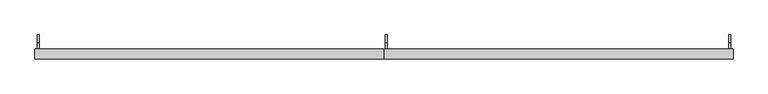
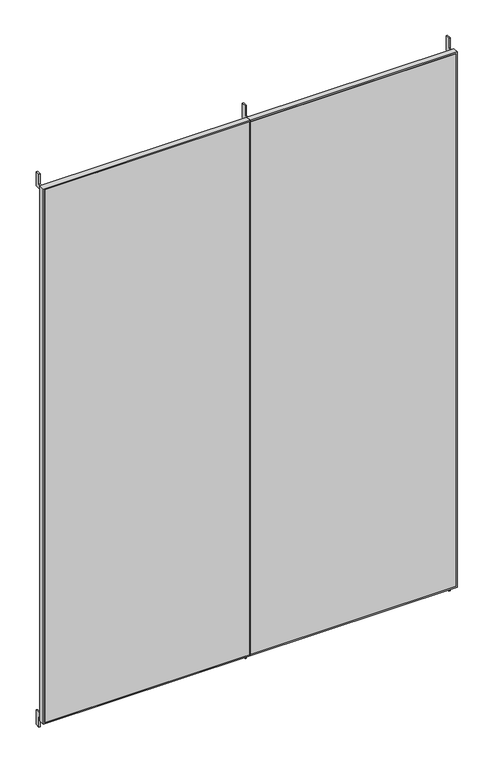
"""IFC4 building model written with IfcOpenShell, lengths in millimetres: furniture geometry, H02 Protección 2 módulos : H02 Protección 2 módulos 230x315."""

from ifc_helpers import new_model, si_unit, frame, origin, place, context, project, spatial, polyline, outline, extrude, source, transform, mapped, element, save


def furniture_beb05811(model_context):
    return source(origin(), model_context, "Body", "SweptSolid", [
        extrude(outline(polyline([(1152.7003264, -600.0), (48.2003264, -600.0), (48.2003264, -597.0), (1152.7003264, -597.0), (1152.7003264, -600.0)])), frame((0.0, 0.0, 57.0), z_axis=(0.0, 0.0, 1.0), x_axis=(1.0, 0.0, 0.0)), (0.0, 0.0, 1.0), 3036.0),
        extrude(outline(polyline([(3100.0, 1159.7003264), (3100.0, 44.7003264), (50.0, 44.7003264), (50.0, 1159.7003264), (3100.0, 1159.7003264)]), holes=[polyline([(3093.0, 1152.7003264), (57.0, 1152.7003264), (57.0, 48.2003264), (3093.0, 48.2003264), (3093.0, 1152.7003264)])]), frame((0.0, -600.0, 0.0), z_axis=(0.0, 1.0, 0.0), x_axis=(0.0, 0.0, 1.0)), (0.0, 0.0, 1.0), 32.0),
        extrude(outline(polyline([(41.2003264, -600.0), (-1063.2996736, -600.0), (-1063.2996736, -597.0), (41.2003264, -597.0), (41.2003264, -600.0)])), frame((0.0, 0.0, 57.0), z_axis=(0.0, 0.0, 1.0), x_axis=(1.0, 0.0, 0.0)), (0.0, 0.0, 1.0), 3036.0),
        extrude(outline(polyline([(3100.0, 44.7003264), (3100.0, -1070.2996736), (50.0, -1070.2996736), (50.0, 44.7003264), (3100.0, 44.7003264)]), holes=[polyline([(3093.0, 41.2003264), (57.0, 41.2003264), (57.0, -1063.2996736), (3093.0, -1063.2996736), (3093.0, 41.2003264)])]), frame((0.0, -600.0, 0.0), z_axis=(0.0, 1.0, 0.0), x_axis=(0.0, 0.0, 1.0)), (0.0, 0.0, 1.0), 32.0),
        extrude(outline(polyline([(-522.0, 3068.0), (-597.0, 3068.0), (-597.0, 3093.0), (-547.0, 3093.0), (-547.0, 3150.0), (-522.0, 3150.0), (-522.0, 3068.0)])), frame((-1063.2996736, 0.0, 0.0), z_axis=(1.0, 0.0, 0.0), x_axis=(0.0, 1.0, 0.0)), (0.0, 0.0, 1.0), 7.0),
        extrude(outline(polyline([(-522.0, 3068.0), (-597.0, 3068.0), (-597.0, 3093.0), (-547.0, 3093.0), (-547.0, 3150.0), (-522.0, 3150.0), (-522.0, 3068.0)])), frame((1145.7003264, 0.0, 0.0), z_axis=(1.0, 0.0, 0.0), x_axis=(0.0, 1.0, 0.0)), (0.0, 0.0, 1.0), 7.0),
        extrude(outline(polyline([(-522.0, 82.0), (-522.0, 0.0), (-547.0, 0.0), (-547.0, 57.0), (-597.0, 57.0), (-597.0, 82.0), (-522.0, 82.0)])), frame((1145.7003264, 0.0, 0.0), z_axis=(1.0, 0.0, 0.0), x_axis=(0.0, 1.0, 0.0)), (0.0, 0.0, 1.0), 7.0),
        extrude(outline(polyline([(-522.0, 82.0), (-522.0, 0.0), (-547.0, 0.0), (-547.0, 57.0), (-597.0, 57.0), (-597.0, 82.0), (-522.0, 82.0)])), frame((-1063.2996736, 0.0, 0.0), z_axis=(1.0, 0.0, 0.0), x_axis=(0.0, 1.0, 0.0)), (0.0, 0.0, 1.0), 7.0),
        extrude(outline(polyline([(-522.0, 3068.0), (-597.0, 3068.0), (-597.0, 3093.0), (-547.0, 3093.0), (-547.0, 3150.0), (-522.0, 3150.0), (-522.0, 3068.0)])), frame((48.2003264, 0.0, 0.0), z_axis=(1.0, 0.0, 0.0), x_axis=(0.0, 1.0, 0.0)), (0.0, 0.0, 1.0), 7.0),
        extrude(outline(polyline([(-522.0, 82.0), (-522.0, 0.0), (-547.0, 0.0), (-547.0, 57.0), (-597.0, 57.0), (-597.0, 82.0), (-522.0, 82.0)])), frame((48.2003264, 0.0, 0.0), z_axis=(1.0, 0.0, 0.0), x_axis=(0.0, 1.0, 0.0)), (0.0, 0.0, 1.0), 7.0),
    ])


if __name__ == "__main__":
    model = new_model("IFC4")
    model_context = context("Model", 3, world=origin())
    ifc_project = project(units=[si_unit("LENGTHUNIT", "METRE", prefix="MILLI")], contexts=[model_context])
    site = spatial("IfcSite", under=ifc_project)
    building = spatial("IfcBuilding", under=site)
    placement = place(None, origin())
    furniture_shape = furniture_beb05811(model_context)
    element("IfcFurniture", 1, ObjectType="H02 Protección 2 módulos : H02 Protección 2 módulos 230x315", at=placement, inside=building, context=model_context, shape_type="MappedRepresentation", body=[
        mapped(furniture_shape, transform((0.0, 0.0, 0.0), x_axis=(1.0, 0.0, 0.0), y_axis=(0.0, 1.0, 0.0), z_axis=(0.0, 0.0, 1.0))),
    ])
    save(model, "model.ifc")
